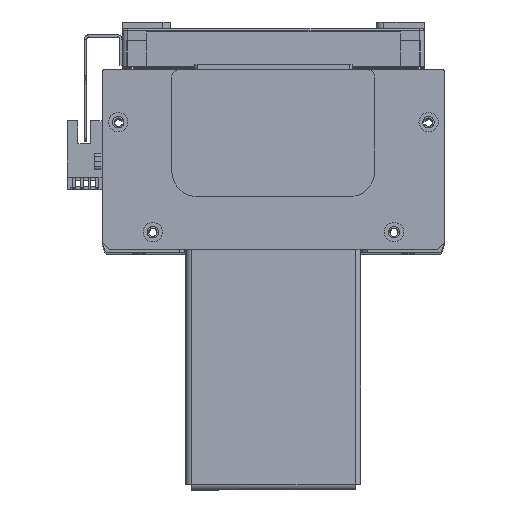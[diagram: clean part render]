
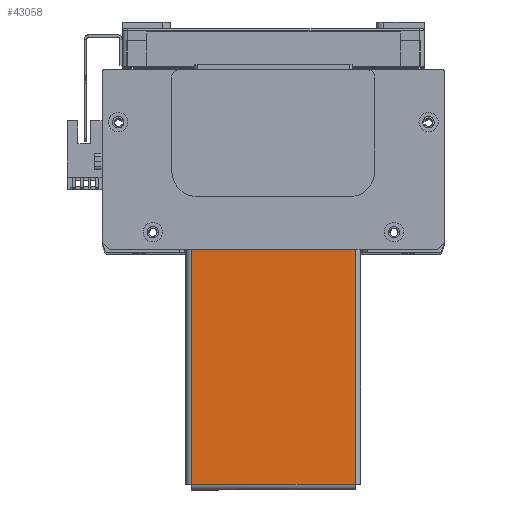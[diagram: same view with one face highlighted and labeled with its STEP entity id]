
A CAD part, top view. The second image highlights one B-rep face of the part: STEP entity #43058.
In plain terms, the highlighted planar face has unit normal (0, 0, 1) as drawn and (0, -1, 0) by its records, which use the part's own axes.
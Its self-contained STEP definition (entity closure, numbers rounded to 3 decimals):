
#508 = EDGE_LOOP ( 'NONE', ( #32944, #32962, #32913, #32964 ) ) ;
#8089 = PLANE ( 'NONE',  #38547 ) ;
#8098 = DIRECTION ( 'NONE',  ( 0., 1., 0. ) ) ;
#8100 = CARTESIAN_POINT ( 'NONE',  ( 0., -1.5, 0. ) ) ;
#8101 = DIRECTION ( 'NONE',  ( 0., 0., 1. ) ) ;
#11360 = EDGE_CURVE ( 'NONE', #43919, #43913, #57016, .T. ) ;
#11376 = EDGE_CURVE ( 'NONE', #43925, #43970, #57068, .T. ) ;
#11383 = EDGE_CURVE ( 'NONE', #43919, #43970, #57014, .T. ) ;
#11385 = EDGE_CURVE ( 'NONE', #43913, #43925, #57082, .T. ) ;
#32913 = ORIENTED_EDGE ( 'NONE', *, *, #11360, .T. ) ;
#32944 = ORIENTED_EDGE ( 'NONE', *, *, #11376, .T. ) ;
#32962 = ORIENTED_EDGE ( 'NONE', *, *, #11383, .F. ) ;
#32964 = ORIENTED_EDGE ( 'NONE', *, *, #11385, .T. ) ;
#34213 = CARTESIAN_POINT ( 'NONE',  ( -94.763, -1.5, 32.263 ) ) ;
#34225 = CARTESIAN_POINT ( 'NONE',  ( -94.763, -1.5, -32.263 ) ) ;
#34237 = CARTESIAN_POINT ( 'NONE',  ( -2., -1.5, 32.263 ) ) ;
#34263 = CARTESIAN_POINT ( 'NONE',  ( -2., -1.5, -32.263 ) ) ;
#38547 = AXIS2_PLACEMENT_3D ( 'NONE', #8100, #8098, #8101 ) ;
#43058 = ADVANCED_FACE ( 'NONE', ( #48631 ), #8089, .F. ) ;
#43913 = VERTEX_POINT ( 'NONE', #34213 ) ;
#43919 = VERTEX_POINT ( 'NONE', #34237 ) ;
#43925 = VERTEX_POINT ( 'NONE', #34225 ) ;
#43970 = VERTEX_POINT ( 'NONE', #34263 ) ;
#48631 = FACE_OUTER_BOUND ( 'NONE', #508, .T. ) ;
#54094 = DIRECTION ( 'NONE',  ( -1., 0., 0. ) ) ;
#54100 = CARTESIAN_POINT ( 'NONE',  ( 94.793, -1.5, 32.263 ) ) ;
#54104 = DIRECTION ( 'NONE',  ( 1., 0., 0. ) ) ;
#54149 = CARTESIAN_POINT ( 'NONE',  ( -94.793, -1.5, -32.263 ) ) ;
#54152 = CARTESIAN_POINT ( 'NONE',  ( -94.763, -1.5, 32.293 ) ) ;
#54171 = CARTESIAN_POINT ( 'NONE',  ( -2., -1.5, 34.5 ) ) ;
#54172 = DIRECTION ( 'NONE',  ( 0., 0., -1. ) ) ;
#54175 = DIRECTION ( 'NONE',  ( 0., 0., -1. ) ) ;
#57014 = LINE ( 'NONE', #54171, #57093 ) ;
#57016 = LINE ( 'NONE', #54100, #57026 ) ;
#57022 = VECTOR ( 'NONE', #54104, 1000. ) ;
#57026 = VECTOR ( 'NONE', #54094, 1000. ) ;
#57068 = LINE ( 'NONE', #54149, #57022 ) ;
#57082 = LINE ( 'NONE', #54152, #57134 ) ;
#57093 = VECTOR ( 'NONE', #54172, 1000. ) ;
#57134 = VECTOR ( 'NONE', #54175, 1000. ) ;
